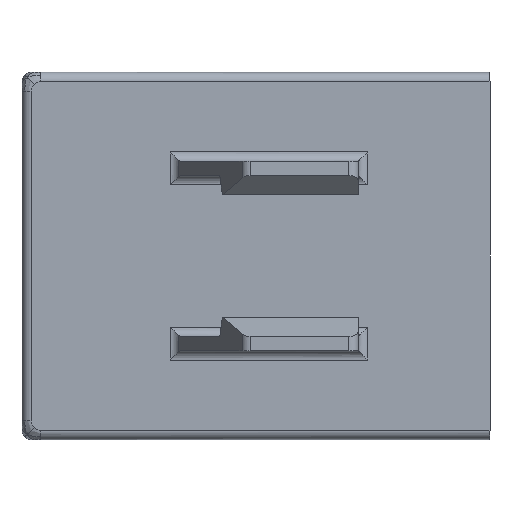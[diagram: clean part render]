
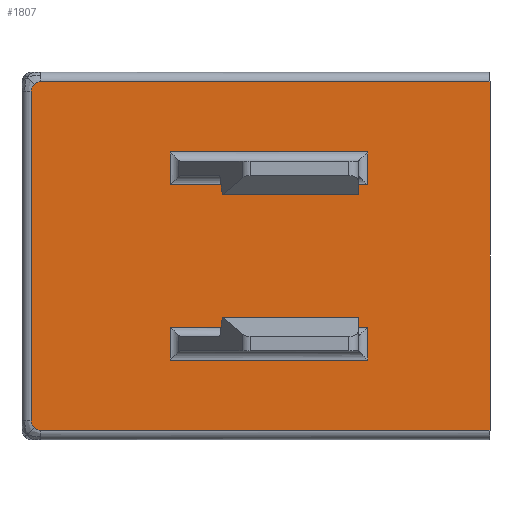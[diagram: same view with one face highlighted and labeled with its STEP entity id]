
A CAD part, front view. The second image highlights one B-rep face of the part: STEP entity #1807.
In plain terms, the highlighted planar face has unit normal (0, -1, 0).
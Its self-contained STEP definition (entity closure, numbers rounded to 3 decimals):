
#17=FACE_BOUND('',#630,.T.);
#18=FACE_BOUND('',#631,.T.);
#34=PLANE('',#1927);
#109=LINE('',#3136,#298);
#110=LINE('',#3143,#299);
#111=LINE('',#3146,#300);
#112=LINE('',#3148,#301);
#113=LINE('',#3152,#302);
#114=LINE('',#3153,#303);
#115=LINE('',#3156,#304);
#116=LINE('',#3159,#305);
#117=LINE('',#3162,#306);
#118=LINE('',#3164,#307);
#119=LINE('',#3166,#308);
#120=LINE('',#3167,#309);
#298=VECTOR('',#2130,10.);
#299=VECTOR('',#2139,10.);
#300=VECTOR('',#2144,10.);
#301=VECTOR('',#2147,10.);
#302=VECTOR('',#2150,10.);
#303=VECTOR('',#2151,10.);
#304=VECTOR('',#2154,10.);
#305=VECTOR('',#2157,10.);
#306=VECTOR('',#2158,10.);
#307=VECTOR('',#2159,10.);
#308=VECTOR('',#2160,10.);
#309=VECTOR('',#2161,10.);
#530=FACE_OUTER_BOUND('',#629,.T.);
#629=EDGE_LOOP('',(#1339,#1340,#1341,#1342,#1343,#1344,#1345,#1346));
#630=EDGE_LOOP('',(#1347,#1348,#1349,#1350));
#631=EDGE_LOOP('',(#1351,#1352,#1353,#1354));
#722=CIRCLE('',#1892,1.);
#732=CIRCLE('',#1902,1.);
#736=CIRCLE('',#1928,1.);
#737=CIRCLE('',#1929,1.);
#788=VERTEX_POINT('',#2754);
#789=VERTEX_POINT('',#2761);
#800=VERTEX_POINT('',#2992);
#801=VERTEX_POINT('',#2999);
#823=VERTEX_POINT('',#3134);
#824=VERTEX_POINT('',#3135);
#825=VERTEX_POINT('',#3140);
#826=VERTEX_POINT('',#3142);
#827=VERTEX_POINT('',#3150);
#828=VERTEX_POINT('',#3151);
#829=VERTEX_POINT('',#3154);
#830=VERTEX_POINT('',#3157);
#831=VERTEX_POINT('',#3160);
#832=VERTEX_POINT('',#3161);
#833=VERTEX_POINT('',#3163);
#834=VERTEX_POINT('',#3165);
#970=EDGE_CURVE('',#788,#789,#722,.T.);
#986=EDGE_CURVE('',#800,#801,#732,.T.);
#1018=EDGE_CURVE('',#823,#824,#109,.T.);
#1022=EDGE_CURVE('',#825,#826,#110,.T.);
#1024=EDGE_CURVE('',#824,#825,#111,.T.);
#1025=EDGE_CURVE('',#826,#823,#112,.T.);
#1026=EDGE_CURVE('',#827,#828,#113,.F.);
#1027=EDGE_CURVE('',#789,#827,#114,.T.);
#1028=EDGE_CURVE('',#829,#788,#736,.T.);
#1029=EDGE_CURVE('',#801,#829,#115,.T.);
#1030=EDGE_CURVE('',#830,#800,#737,.T.);
#1031=EDGE_CURVE('',#828,#830,#116,.T.);
#1032=EDGE_CURVE('',#831,#832,#117,.T.);
#1033=EDGE_CURVE('',#833,#831,#118,.T.);
#1034=EDGE_CURVE('',#834,#833,#119,.T.);
#1035=EDGE_CURVE('',#832,#834,#120,.T.);
#1339=ORIENTED_EDGE('',*,*,#1026,.F.);
#1340=ORIENTED_EDGE('',*,*,#1027,.F.);
#1341=ORIENTED_EDGE('',*,*,#970,.F.);
#1342=ORIENTED_EDGE('',*,*,#1028,.F.);
#1343=ORIENTED_EDGE('',*,*,#1029,.F.);
#1344=ORIENTED_EDGE('',*,*,#986,.F.);
#1345=ORIENTED_EDGE('',*,*,#1030,.F.);
#1346=ORIENTED_EDGE('',*,*,#1031,.F.);
#1347=ORIENTED_EDGE('',*,*,#1032,.F.);
#1348=ORIENTED_EDGE('',*,*,#1033,.F.);
#1349=ORIENTED_EDGE('',*,*,#1034,.F.);
#1350=ORIENTED_EDGE('',*,*,#1035,.F.);
#1351=ORIENTED_EDGE('',*,*,#1022,.F.);
#1352=ORIENTED_EDGE('',*,*,#1024,.F.);
#1353=ORIENTED_EDGE('',*,*,#1018,.F.);
#1354=ORIENTED_EDGE('',*,*,#1025,.F.);
#1807=ADVANCED_FACE('',(#530,#17,#18),#34,.T.);
#1892=AXIS2_PLACEMENT_3D('',#2762,#2052,#2053);
#1902=AXIS2_PLACEMENT_3D('',#3000,#2072,#2073);
#1927=AXIS2_PLACEMENT_3D('',#3149,#2148,#2149);
#1928=AXIS2_PLACEMENT_3D('',#3155,#2152,#2153);
#1929=AXIS2_PLACEMENT_3D('',#3158,#2155,#2156);
#2052=DIRECTION('center_axis',(0.,1.,0.));
#2053=DIRECTION('ref_axis',(-0.707,0.,0.707));
#2072=DIRECTION('center_axis',(0.,1.,0.));
#2073=DIRECTION('ref_axis',(-0.707,0.,-0.707));
#2130=DIRECTION('',(0.,0.,-1.));
#2139=DIRECTION('',(0.,0.,1.));
#2144=DIRECTION('',(1.,0.,0.));
#2147=DIRECTION('',(-1.,0.,0.));
#2148=DIRECTION('center_axis',(0.,-1.,0.));
#2149=DIRECTION('ref_axis',(0.,0.,1.));
#2150=DIRECTION('',(0.,0.,1.));
#2151=DIRECTION('',(1.,0.,0.));
#2152=DIRECTION('center_axis',(0.,1.,0.));
#2153=DIRECTION('ref_axis',(-0.707,0.,0.707));
#2154=DIRECTION('',(0.,0.,1.));
#2155=DIRECTION('center_axis',(0.,1.,0.));
#2156=DIRECTION('ref_axis',(-0.707,0.,-0.707));
#2157=DIRECTION('',(-1.,0.,0.));
#2158=DIRECTION('',(1.,0.,0.));
#2159=DIRECTION('',(0.,0.,-1.));
#2160=DIRECTION('',(-1.,0.,0.));
#2161=DIRECTION('',(0.,0.,1.));
#2754=CARTESIAN_POINT('',(-3.707,-3.,3.207));
#2761=CARTESIAN_POINT('',(-3.,-3.,3.5));
#2762=CARTESIAN_POINT('Origin',(-3.,-3.,2.5));
#2992=CARTESIAN_POINT('',(-3.707,-3.,-33.207));
#2999=CARTESIAN_POINT('',(-4.,-3.,-32.5));
#3000=CARTESIAN_POINT('Origin',(-3.,-3.,-32.5));
#3134=CARTESIAN_POINT('',(10.746,-3.,-22.55));
#3135=CARTESIAN_POINT('',(10.746,-3.,-26.05));
#3136=CARTESIAN_POINT('',(10.746,-3.,-12.6));
#3140=CARTESIAN_POINT('',(31.7,-3.,-26.05));
#3142=CARTESIAN_POINT('',(31.7,-3.,-22.55));
#3143=CARTESIAN_POINT('',(31.7,-3.,-8.875));
#3146=CARTESIAN_POINT('',(22.35,-3.,-26.05));
#3148=CARTESIAN_POINT('',(28.35,-3.,-22.55));
#3149=CARTESIAN_POINT('Origin',(26.,-3.,-15.));
#3150=CARTESIAN_POINT('',(44.7,-3.,3.5));
#3151=CARTESIAN_POINT('',(44.7,-3.,-33.5));
#3152=CARTESIAN_POINT('',(44.7,-3.,-15.));
#3153=CARTESIAN_POINT('',(24.75,-3.,3.5));
#3154=CARTESIAN_POINT('',(-4.,-3.,2.5));
#3155=CARTESIAN_POINT('Origin',(-3.,-3.,2.5));
#3156=CARTESIAN_POINT('',(-4.,-3.,-15.));
#3157=CARTESIAN_POINT('',(-3.,-3.,-33.5));
#3158=CARTESIAN_POINT('Origin',(-3.,-3.,-32.5));
#3159=CARTESIAN_POINT('',(24.75,-3.,-33.5));
#3160=CARTESIAN_POINT('',(10.746,-3.,-7.45));
#3161=CARTESIAN_POINT('',(31.7,-3.,-7.45));
#3162=CARTESIAN_POINT('',(28.35,-3.,-7.45));
#3163=CARTESIAN_POINT('',(10.746,-3.,-3.95));
#3164=CARTESIAN_POINT('',(10.746,-3.,-12.95));
#3165=CARTESIAN_POINT('',(31.7,-3.,-3.95));
#3166=CARTESIAN_POINT('',(22.35,-3.,-3.95));
#3167=CARTESIAN_POINT('',(31.7,-3.,-9.225));
